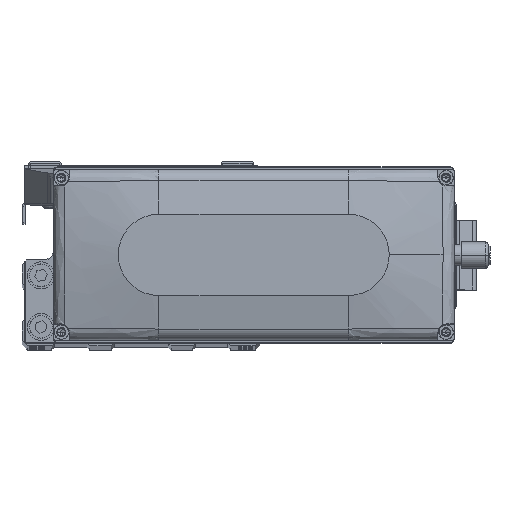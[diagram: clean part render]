
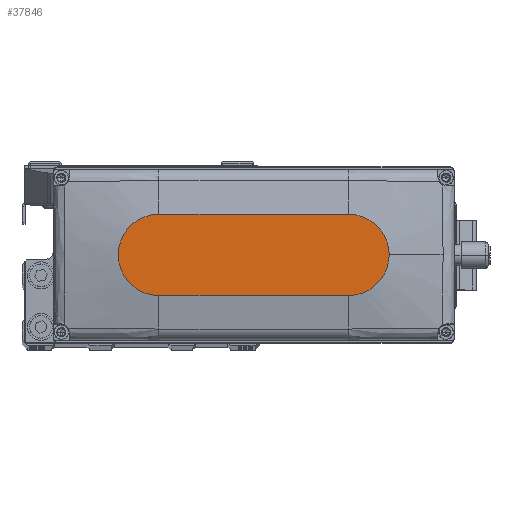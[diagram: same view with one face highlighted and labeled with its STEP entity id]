
A CAD part, top view. The second image highlights one B-rep face of the part: STEP entity #37846.
In plain terms, the highlighted planar face has unit normal (0, 0, 1).
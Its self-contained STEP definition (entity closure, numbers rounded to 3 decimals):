
#3022 = CARTESIAN_POINT ( 'NONE',  ( -35., 15., 35. ) ) ;
#4607 = CARTESIAN_POINT ( 'NONE',  ( 35., 0., 35. ) ) ;
#6753 = VECTOR ( 'NONE', #11537, 1000. ) ;
#8131 = CARTESIAN_POINT ( 'NONE',  ( -35., 15., 35. ) ) ;
#8331 = CARTESIAN_POINT ( 'NONE',  ( 35., 0., 35. ) ) ;
#9936 = CARTESIAN_POINT ( 'NONE',  ( -35., -15., 35. ) ) ;
#11537 = DIRECTION ( 'NONE',  ( 1., 0., 0. ) ) ;
#12428 = VERTEX_POINT ( 'NONE', #9936 ) ;
#13525 = DIRECTION ( 'NONE',  ( 0., 0., 1. ) ) ;
#14126 = CARTESIAN_POINT ( 'NONE',  ( -35., 0., 35. ) ) ;
#14894 = VERTEX_POINT ( 'NONE', #3022 ) ;
#15251 = ORIENTED_EDGE ( 'NONE', *, *, #39090, .T. ) ;
#15997 = CARTESIAN_POINT ( 'NONE',  ( 50., 0., 35. ) ) ;
#16075 = CIRCLE ( 'NONE', #44292, 15. ) ;
#16966 = VERTEX_POINT ( 'NONE', #27145 ) ;
#17305 = FACE_OUTER_BOUND ( 'NONE', #49097, .T. ) ;
#19921 = AXIS2_PLACEMENT_3D ( 'NONE', #4607, #20052, #35452 ) ;
#20052 = DIRECTION ( 'NONE',  ( 0., 0., 1. ) ) ;
#23557 = DIRECTION ( 'NONE',  ( -1., 0., 0. ) ) ;
#23757 = DIRECTION ( 'NONE',  ( 0., 0., 1. ) ) ;
#24187 = VERTEX_POINT ( 'NONE', #15997 ) ;
#25411 = EDGE_CURVE ( 'NONE', #16966, #24187, #41689, .T. ) ;
#26744 = EDGE_CURVE ( 'NONE', #12428, #16966, #30752, .T. ) ;
#27145 = CARTESIAN_POINT ( 'NONE',  ( 35., -15., 35. ) ) ;
#28938 = DIRECTION ( 'NONE',  ( 1., 0., 0. ) ) ;
#29541 = DIRECTION ( 'NONE',  ( 0., 0., 1. ) ) ;
#30752 = LINE ( 'NONE', #46135, #6753 ) ;
#31691 = ORIENTED_EDGE ( 'NONE', *, *, #35868, .T. ) ;
#32504 = ORIENTED_EDGE ( 'NONE', *, *, #25411, .T. ) ;
#32713 = PLANE ( 'NONE',  #41530 ) ;
#35303 = CIRCLE ( 'NONE', #41749, 15. ) ;
#35452 = DIRECTION ( 'NONE',  ( 1., 0., 0. ) ) ;
#35868 = EDGE_CURVE ( 'NONE', #14894, #12428, #16075, .T. ) ;
#37846 = ADVANCED_FACE ( 'NONE', ( #17305 ), #32713, .T. ) ;
#39090 = EDGE_CURVE ( 'NONE', #42123, #14894, #42753, .T. ) ;
#39159 = DIRECTION ( 'NONE',  ( 1., 0., 0. ) ) ;
#40910 = CARTESIAN_POINT ( 'NONE',  ( 35., 15., 35. ) ) ;
#41367 = ORIENTED_EDGE ( 'NONE', *, *, #41944, .T. ) ;
#41530 = AXIS2_PLACEMENT_3D ( 'NONE', #48115, #13525, #28938 ) ;
#41689 = CIRCLE ( 'NONE', #19921, 15. ) ;
#41749 = AXIS2_PLACEMENT_3D ( 'NONE', #8331, #23757, #39159 ) ;
#41944 = EDGE_CURVE ( 'NONE', #24187, #42123, #35303, .T. ) ;
#42123 = VERTEX_POINT ( 'NONE', #40910 ) ;
#42753 = LINE ( 'NONE', #8131, #46464 ) ;
#44292 = AXIS2_PLACEMENT_3D ( 'NONE', #14126, #29541, #44946 ) ;
#44593 = ORIENTED_EDGE ( 'NONE', *, *, #26744, .T. ) ;
#44946 = DIRECTION ( 'NONE',  ( 1., 0., 0. ) ) ;
#46135 = CARTESIAN_POINT ( 'NONE',  ( -35., -15., 35. ) ) ;
#46464 = VECTOR ( 'NONE', #23557, 1000. ) ;
#48115 = CARTESIAN_POINT ( 'NONE',  ( 0., 0., 35. ) ) ;
#49097 = EDGE_LOOP ( 'NONE', ( #15251, #31691, #44593, #32504, #41367 ) ) ;
